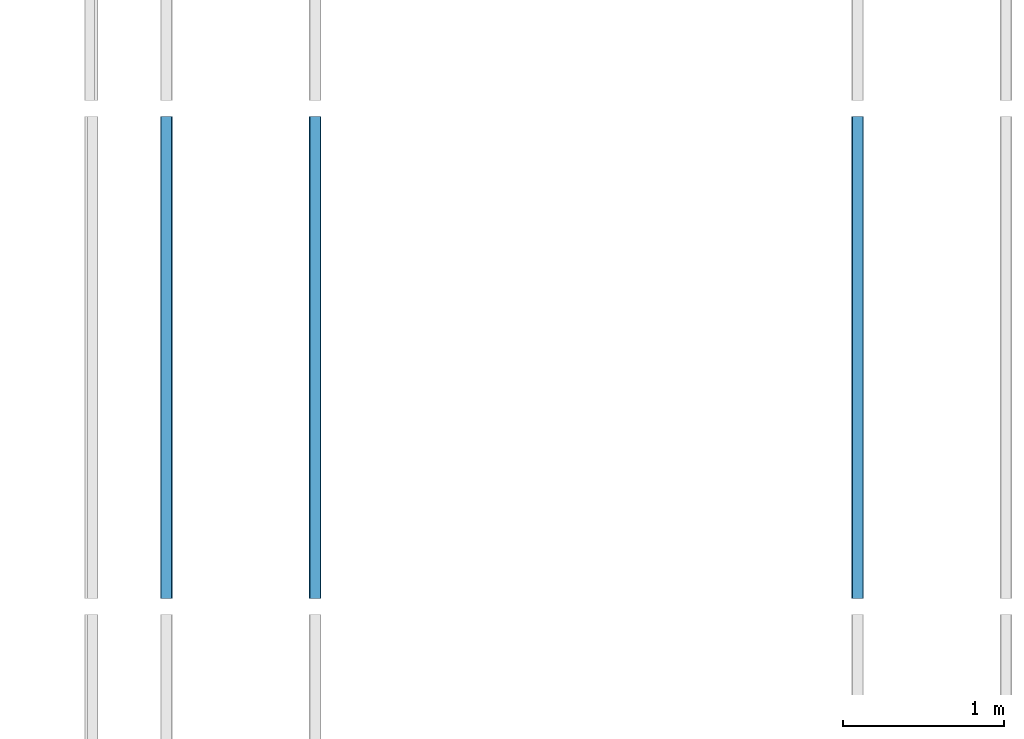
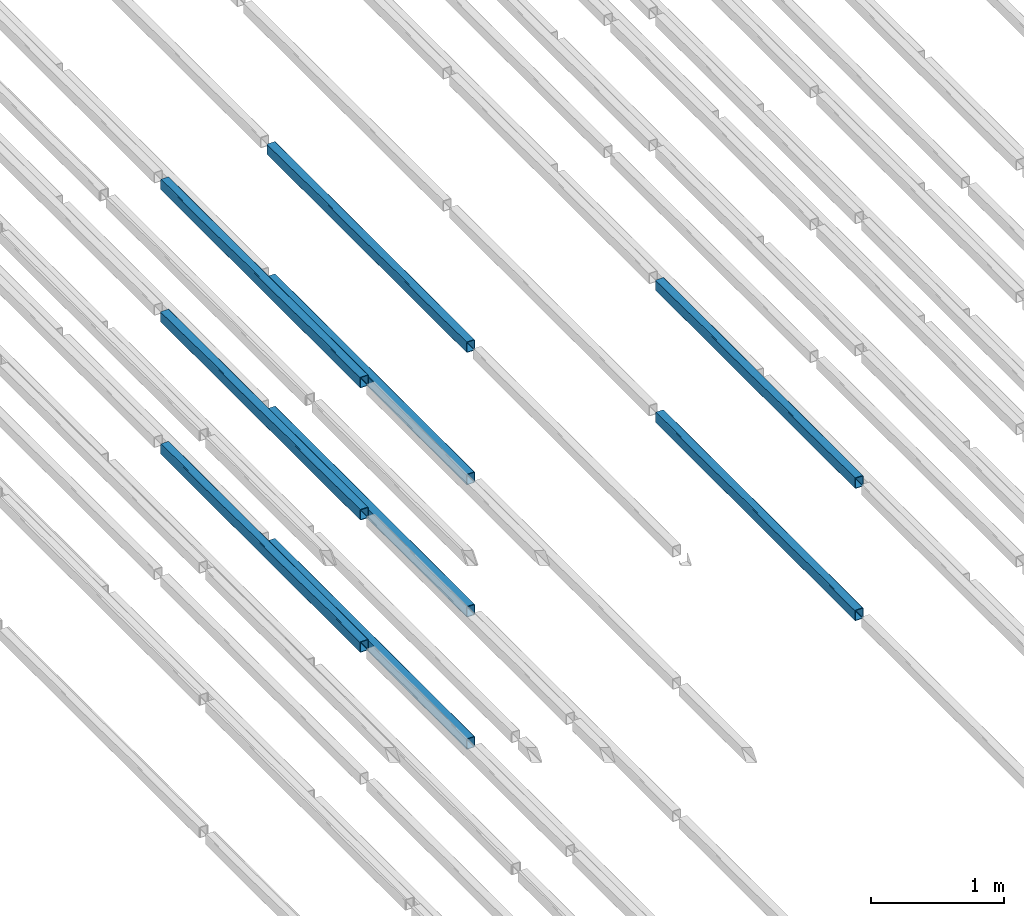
# One storey, part 58 of 290: 9 beams.
"""IFC2X3 building model written with IfcOpenShell, lengths in metres."""

from ifc_helpers import new_model, entity, si_unit, converted_unit, derived_unit, direction, frame, frame_2d, origin, place, context, subcontext, project, spatial, polyline, circle_curve, parameter, trimmed, segment, composite_curve, outline, extrude, material, type_object, element, save


model = new_model("IFC2X3")

# Units and contexts
model_context = context("Model", 3, precision=1e-05, world=origin(), true_north=direction((6.12303176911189e-17, 1.0)))
body_context = subcontext(model_context, "Body", "Model", "MODEL_VIEW")
ifc_project = project(units=[si_unit("LENGTHUNIT", "METRE"), si_unit("AREAUNIT", "SQUARE_METRE"), si_unit("VOLUMEUNIT", "CUBIC_METRE"), converted_unit("PLANEANGLEUNIT", "DEGREE", entity("IfcRatioMeasure", 0.0174532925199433), si_unit("PLANEANGLEUNIT", "RADIAN"), dimensions=[0, 0, 0, 0, 0, 0, 0]), si_unit("MASSUNIT", "GRAM", prefix="KILO"), derived_unit("MASSDENSITYUNIT", [(si_unit("MASSUNIT", "GRAM", prefix="KILO"), 1), (si_unit("LENGTHUNIT", "METRE"), -3)]), derived_unit("MOMENTOFINERTIAUNIT", [(si_unit("LENGTHUNIT", "METRE"), 4)]), si_unit("TIMEUNIT", "SECOND"), si_unit("FREQUENCYUNIT", "HERTZ"), si_unit("THERMODYNAMICTEMPERATUREUNIT", "DEGREE_CELSIUS"), derived_unit("THERMALTRANSMITTANCEUNIT", [(si_unit("MASSUNIT", "GRAM", prefix="KILO"), 1), (si_unit("THERMODYNAMICTEMPERATUREUNIT", "KELVIN"), -1), (si_unit("TIMEUNIT", "SECOND"), -3)]), derived_unit("VOLUMETRICFLOWRATEUNIT", [(si_unit("LENGTHUNIT", "METRE"), 3), (si_unit("TIMEUNIT", "SECOND"), -1)]), si_unit("ELECTRICCURRENTUNIT", "AMPERE"), si_unit("ELECTRICVOLTAGEUNIT", "VOLT"), si_unit("POWERUNIT", "WATT"), si_unit("FORCEUNIT", "NEWTON", prefix="KILO"), si_unit("ILLUMINANCEUNIT", "LUX"), si_unit("LUMINOUSFLUXUNIT", "LUMEN"), si_unit("LUMINOUSINTENSITYUNIT", "CANDELA"), derived_unit("USERDEFINED", [(si_unit("MASSUNIT", "GRAM", prefix="KILO"), -1), (si_unit("LENGTHUNIT", "METRE"), -2), (si_unit("TIMEUNIT", "SECOND"), 3), (si_unit("LUMINOUSFLUXUNIT", "LUMEN"), 1)]), derived_unit("LINEARVELOCITYUNIT", [(si_unit("LENGTHUNIT", "METRE"), 1), (si_unit("TIMEUNIT", "SECOND"), -1)]), si_unit("PRESSUREUNIT", "PASCAL"), derived_unit("USERDEFINED", [(si_unit("LENGTHUNIT", "METRE"), -2), (si_unit("MASSUNIT", "GRAM", prefix="KILO"), 1), (si_unit("TIMEUNIT", "SECOND"), -2)]), derived_unit("LINEARFORCEUNIT", [(si_unit("MASSUNIT", "GRAM", prefix="KILO"), 1), (si_unit("LENGTHUNIT", "METRE"), 1), (si_unit("TIMEUNIT", "SECOND"), -2), (si_unit("LENGTHUNIT", "METRE"), -1)]), derived_unit("PLANARFORCEUNIT", [(si_unit("MASSUNIT", "GRAM", prefix="KILO"), 1), (si_unit("LENGTHUNIT", "METRE"), 1), (si_unit("TIMEUNIT", "SECOND"), -2), (si_unit("LENGTHUNIT", "METRE"), -2)])], contexts=[model_context])

# Site, building, storey
site_placement = place(None, origin())
site = spatial("IfcSite", under=ifc_project, at=site_placement, Name="Default", CompositionType="ELEMENT")
building_placement = place(site_placement, origin())
building = spatial("IfcBuilding", under=site, at=building_placement, CompositionType="ELEMENT")
storey_placement = place(building_placement, frame((0.0, 0.0, 4.0)))
storey = spatial("IfcBuildingStorey", under=building, at=storey_placement, Name="01_OG", CompositionType="ELEMENT", Elevation=4.0)

# Beams
ifc_material = material(Name="Metall - Baustahl S235 blau")
beam_type = type_object("IfcBeamType", Name="RHS Träger (EN 10219-2):RHS 100 x 75 x 5", PredefinedType="NOTDEFINED")
beam_1_placement = place(storey_placement, frame((-196.415111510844, 39.548088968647, -1.2), z_axis=(0.0, 0.0, 1.0), x_axis=(0.0, 1.0, 0.0)))
element("IfcBeam", 1, at=beam_1_placement, inside=storey, type_object=beam_type, material=ifc_material, Name="RHS Träger (EN 10219-2):RHS 100 x 75 x 5", ObjectType="RHS Träger (EN 10219-2):RHS 100 x 75 x 5", context=body_context, shape_type="SweptSolid", body=[
    extrude(outline(composite_curve([segment(trimmed(circle_curve(frame_2d((-0.0274999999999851, -0.0400000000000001), x_axis=(1.0, 0.0)), 0.01), [parameter(180.0)], [parameter(270.0)], True, "PARAMETER"), True, "CONTINUOUS"), segment(polyline([(-0.0274999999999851, -0.05), (0.0274999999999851, -0.05)]), True, "CONTINUOUS"), segment(trimmed(circle_curve(frame_2d((0.0274999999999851, -0.0400000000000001), x_axis=(1.0, 0.0)), 0.01), [parameter(270.0)], [parameter(5.08888749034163e-14)], True, "PARAMETER"), True, "CONTINUOUS"), segment(polyline([(0.0375000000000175, -0.0400000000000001), (0.0375000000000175, 0.0400000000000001)]), True, "CONTINUOUS"), segment(trimmed(circle_curve(frame_2d((0.0274999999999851, 0.0400000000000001), x_axis=(1.0, 0.0)), 0.01), [parameter(360.0)], [parameter(89.9999999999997)], True, "PARAMETER"), True, "CONTINUOUS"), segment(polyline([(0.0274999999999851, 0.05), (-0.0274999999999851, 0.05)]), True, "CONTINUOUS"), segment(trimmed(circle_curve(frame_2d((-0.0274999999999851, 0.0400000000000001), x_axis=(1.0, 0.0)), 0.01), [parameter(90.0000000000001)], [parameter(180.0)], True, "PARAMETER"), True, "CONTINUOUS"), segment(polyline([(-0.0374999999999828, 0.0400000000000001), (-0.0374999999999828, -0.0400000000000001)]), True, "CONTINUOUS")], self_intersect=False), holes=[composite_curve([segment(polyline([(0.0274999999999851, -0.0450000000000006), (-0.0274999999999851, -0.0450000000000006)]), True, "CONTINUOUS"), segment(trimmed(circle_curve(frame_2d((-0.0274999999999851, -0.0400000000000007), x_axis=(1.0, 0.0)), 0.005), [parameter(180.0)], [parameter(270.0)], True, "PARAMETER"), False, "CONTINUOUS"), segment(polyline([(-0.0325000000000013, -0.0400000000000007), (-0.0325000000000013, 0.039999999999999)]), True, "CONTINUOUS"), segment(trimmed(circle_curve(frame_2d((-0.0274999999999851, 0.039999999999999), x_axis=(1.0, 0.0)), 0.005), [parameter(90.0000000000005)], [parameter(180.0)], True, "PARAMETER"), False, "CONTINUOUS"), segment(polyline([(-0.0274999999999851, 0.044999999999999), (0.0274999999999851, 0.044999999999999)]), True, "CONTINUOUS"), segment(trimmed(circle_curve(frame_2d((0.0274999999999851, 0.039999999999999), x_axis=(1.0, 0.0)), 0.005), [parameter(0.0)], [parameter(90.0000000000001)], True, "PARAMETER"), False, "CONTINUOUS"), segment(polyline([(0.0325000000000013, 0.039999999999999), (0.0325000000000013, -0.0400000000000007)]), True, "CONTINUOUS"), segment(trimmed(circle_curve(frame_2d((0.0274999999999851, -0.0400000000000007), x_axis=(1.0, 0.0)), 0.005), [parameter(270.0)], [parameter(4.07110999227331e-13)], True, "PARAMETER"), False, "CONTINUOUS")], self_intersect=False)]), frame((0.000100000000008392, 0.0375000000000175, -0.0500000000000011), z_axis=(1.0, 0.0, 0.0), x_axis=(0.0, -1.0, 0.0)), (0.0, 0.0, 1.0), 2.99979999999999),
])
beam_2_placement = place(storey_placement, frame((-196.415111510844, 39.548088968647, 0.0150000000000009), z_axis=(0.0, 0.0, 1.0), x_axis=(0.0, 1.0, 0.0)))
element("IfcBeam", 2, at=beam_2_placement, inside=storey, type_object=beam_type, material=ifc_material, Name="RHS Träger (EN 10219-2):RHS 100 x 75 x 5", ObjectType="RHS Träger (EN 10219-2):RHS 100 x 75 x 5", context=body_context, shape_type="SweptSolid", body=[
    extrude(outline(composite_curve([segment(trimmed(circle_curve(frame_2d((-0.0274999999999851, -0.0400000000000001), x_axis=(1.0, 0.0)), 0.01), [parameter(180.0)], [parameter(270.0)], True, "PARAMETER"), True, "CONTINUOUS"), segment(polyline([(-0.0274999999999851, -0.05), (0.0274999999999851, -0.05)]), True, "CONTINUOUS"), segment(trimmed(circle_curve(frame_2d((0.0274999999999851, -0.0400000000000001), x_axis=(1.0, 0.0)), 0.01), [parameter(270.0)], [parameter(5.08888749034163e-14)], True, "PARAMETER"), True, "CONTINUOUS"), segment(polyline([(0.0375000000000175, -0.0400000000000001), (0.0375000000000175, 0.0400000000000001)]), True, "CONTINUOUS"), segment(trimmed(circle_curve(frame_2d((0.0274999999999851, 0.0400000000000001), x_axis=(1.0, 0.0)), 0.01), [parameter(360.0)], [parameter(89.9999999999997)], True, "PARAMETER"), True, "CONTINUOUS"), segment(polyline([(0.0274999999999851, 0.05), (-0.0274999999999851, 0.05)]), True, "CONTINUOUS"), segment(trimmed(circle_curve(frame_2d((-0.0274999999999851, 0.0400000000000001), x_axis=(1.0, 0.0)), 0.01), [parameter(90.0000000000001)], [parameter(180.0)], True, "PARAMETER"), True, "CONTINUOUS"), segment(polyline([(-0.0374999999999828, 0.0400000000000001), (-0.0374999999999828, -0.0400000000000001)]), True, "CONTINUOUS")], self_intersect=False), holes=[composite_curve([segment(polyline([(0.0274999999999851, -0.0450000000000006), (-0.0274999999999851, -0.0450000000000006)]), True, "CONTINUOUS"), segment(trimmed(circle_curve(frame_2d((-0.0274999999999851, -0.0400000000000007), x_axis=(1.0, 0.0)), 0.005), [parameter(180.0)], [parameter(270.0)], True, "PARAMETER"), False, "CONTINUOUS"), segment(polyline([(-0.0325000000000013, -0.0400000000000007), (-0.0325000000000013, 0.039999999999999)]), True, "CONTINUOUS"), segment(trimmed(circle_curve(frame_2d((-0.0274999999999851, 0.039999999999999), x_axis=(1.0, 0.0)), 0.005), [parameter(90.0000000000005)], [parameter(180.0)], True, "PARAMETER"), False, "CONTINUOUS"), segment(polyline([(-0.0274999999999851, 0.044999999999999), (0.0274999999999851, 0.044999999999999)]), True, "CONTINUOUS"), segment(trimmed(circle_curve(frame_2d((0.0274999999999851, 0.039999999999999), x_axis=(1.0, 0.0)), 0.005), [parameter(0.0)], [parameter(90.0000000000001)], True, "PARAMETER"), False, "CONTINUOUS"), segment(polyline([(0.0325000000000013, 0.039999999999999), (0.0325000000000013, -0.0400000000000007)]), True, "CONTINUOUS"), segment(trimmed(circle_curve(frame_2d((0.0274999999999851, -0.0400000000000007), x_axis=(1.0, 0.0)), 0.005), [parameter(270.0)], [parameter(4.07110999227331e-13)], True, "PARAMETER"), False, "CONTINUOUS")], self_intersect=False)]), frame((0.000100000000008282, 0.0375000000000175, -0.0500000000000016), z_axis=(1.0, 0.0, 0.0), x_axis=(0.0, -1.0, 0.0)), (0.0, 0.0, 1.0), 2.99979999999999),
])
beam_3_placement = place(storey_placement, frame((-200.715111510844, 39.548088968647, 0.0150000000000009), z_axis=(0.0, 0.0, 1.0), x_axis=(0.0, 1.0, 0.0)))
element("IfcBeam", 3, at=beam_3_placement, inside=storey, type_object=beam_type, material=ifc_material, Name="RHS Träger (EN 10219-2):RHS 100 x 75 x 5", ObjectType="RHS Träger (EN 10219-2):RHS 100 x 75 x 5", context=body_context, shape_type="SweptSolid", body=[
    extrude(outline(composite_curve([segment(trimmed(circle_curve(frame_2d((-0.0274999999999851, -0.0400000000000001), x_axis=(1.0, 0.0)), 0.01), [parameter(180.0)], [parameter(270.0)], True, "PARAMETER"), True, "CONTINUOUS"), segment(polyline([(-0.0274999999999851, -0.05), (0.0274999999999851, -0.05)]), True, "CONTINUOUS"), segment(trimmed(circle_curve(frame_2d((0.0274999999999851, -0.0400000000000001), x_axis=(1.0, 0.0)), 0.01), [parameter(270.0)], [parameter(5.08888749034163e-14)], True, "PARAMETER"), True, "CONTINUOUS"), segment(polyline([(0.0375000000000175, -0.0400000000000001), (0.0375000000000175, 0.0400000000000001)]), True, "CONTINUOUS"), segment(trimmed(circle_curve(frame_2d((0.0274999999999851, 0.0400000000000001), x_axis=(1.0, 0.0)), 0.01), [parameter(360.0)], [parameter(89.9999999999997)], True, "PARAMETER"), True, "CONTINUOUS"), segment(polyline([(0.0274999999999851, 0.05), (-0.0274999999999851, 0.05)]), True, "CONTINUOUS"), segment(trimmed(circle_curve(frame_2d((-0.0274999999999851, 0.0400000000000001), x_axis=(1.0, 0.0)), 0.01), [parameter(90.0000000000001)], [parameter(180.0)], True, "PARAMETER"), True, "CONTINUOUS"), segment(polyline([(-0.0374999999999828, 0.0400000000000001), (-0.0374999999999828, -0.0400000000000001)]), True, "CONTINUOUS")], self_intersect=False), holes=[composite_curve([segment(polyline([(0.0274999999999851, -0.0450000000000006), (-0.0274999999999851, -0.0450000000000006)]), True, "CONTINUOUS"), segment(trimmed(circle_curve(frame_2d((-0.0274999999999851, -0.0400000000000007), x_axis=(1.0, 0.0)), 0.005), [parameter(180.0)], [parameter(270.0)], True, "PARAMETER"), False, "CONTINUOUS"), segment(polyline([(-0.0325000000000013, -0.0400000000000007), (-0.0325000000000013, 0.039999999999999)]), True, "CONTINUOUS"), segment(trimmed(circle_curve(frame_2d((-0.0274999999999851, 0.039999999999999), x_axis=(1.0, 0.0)), 0.005), [parameter(90.0000000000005)], [parameter(180.0)], True, "PARAMETER"), False, "CONTINUOUS"), segment(polyline([(-0.0274999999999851, 0.044999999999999), (0.0274999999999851, 0.044999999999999)]), True, "CONTINUOUS"), segment(trimmed(circle_curve(frame_2d((0.0274999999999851, 0.039999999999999), x_axis=(1.0, 0.0)), 0.005), [parameter(0.0)], [parameter(90.0000000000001)], True, "PARAMETER"), False, "CONTINUOUS"), segment(polyline([(0.0325000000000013, 0.039999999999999), (0.0325000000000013, -0.0400000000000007)]), True, "CONTINUOUS"), segment(trimmed(circle_curve(frame_2d((0.0274999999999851, -0.0400000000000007), x_axis=(1.0, 0.0)), 0.005), [parameter(270.0)], [parameter(4.07110999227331e-13)], True, "PARAMETER"), False, "CONTINUOUS")], self_intersect=False)]), frame((9.99999999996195e-05, 0.0375000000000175, -0.0500000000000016), z_axis=(1.0, 0.0, 0.0), x_axis=(0.0, -1.0, 0.0)), (0.0, 0.0, 1.0), 2.99979999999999),
])
beam_4_placement = place(storey_placement, frame((-200.715111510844, 39.548088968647, 1.23), z_axis=(0.0, 0.0, 1.0), x_axis=(0.0, 1.0, 0.0)))
element("IfcBeam", 4, at=beam_4_placement, inside=storey, type_object=beam_type, material=ifc_material, Name="RHS Träger (EN 10219-2):RHS 100 x 75 x 5", ObjectType="RHS Träger (EN 10219-2):RHS 100 x 75 x 5", context=body_context, shape_type="SweptSolid", body=[
    extrude(outline(composite_curve([segment(trimmed(circle_curve(frame_2d((-0.0274999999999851, -0.0399999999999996), x_axis=(1.0, 0.0)), 0.01), [parameter(180.0)], [parameter(270.0)], True, "PARAMETER"), True, "CONTINUOUS"), segment(polyline([(-0.0274999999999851, -0.0499999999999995), (0.0274999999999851, -0.0499999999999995)]), True, "CONTINUOUS"), segment(trimmed(circle_curve(frame_2d((0.0274999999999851, -0.0399999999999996), x_axis=(1.0, 0.0)), 0.01), [parameter(270.0)], [parameter(5.08888749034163e-14)], True, "PARAMETER"), True, "CONTINUOUS"), segment(polyline([(0.0375000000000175, -0.0399999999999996), (0.0375000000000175, 0.0399999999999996)]), True, "CONTINUOUS"), segment(trimmed(circle_curve(frame_2d((0.0274999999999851, 0.0399999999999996), x_axis=(1.0, 0.0)), 0.01), [parameter(360.0)], [parameter(89.9999999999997)], True, "PARAMETER"), True, "CONTINUOUS"), segment(polyline([(0.0274999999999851, 0.0500000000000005), (-0.0274999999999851, 0.0500000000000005)]), True, "CONTINUOUS"), segment(trimmed(circle_curve(frame_2d((-0.0274999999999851, 0.0399999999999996), x_axis=(1.0, 0.0)), 0.01), [parameter(90.0000000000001)], [parameter(180.0)], True, "PARAMETER"), True, "CONTINUOUS"), segment(polyline([(-0.0374999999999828, 0.0399999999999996), (-0.0374999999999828, -0.0399999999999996)]), True, "CONTINUOUS")], self_intersect=False), holes=[composite_curve([segment(polyline([(0.0274999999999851, -0.0450000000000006), (-0.0274999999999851, -0.0450000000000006)]), True, "CONTINUOUS"), segment(trimmed(circle_curve(frame_2d((-0.0274999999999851, -0.0400000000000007), x_axis=(1.0, 0.0)), 0.005), [parameter(180.0)], [parameter(270.0)], True, "PARAMETER"), False, "CONTINUOUS"), segment(polyline([(-0.0325000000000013, -0.0400000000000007), (-0.0325000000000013, 0.0399999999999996)]), True, "CONTINUOUS"), segment(trimmed(circle_curve(frame_2d((-0.0274999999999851, 0.0399999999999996), x_axis=(1.0, 0.0)), 0.005), [parameter(90.0000000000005)], [parameter(180.0)], True, "PARAMETER"), False, "CONTINUOUS"), segment(polyline([(-0.0274999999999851, 0.0449999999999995), (0.0274999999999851, 0.0449999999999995)]), True, "CONTINUOUS"), segment(trimmed(circle_curve(frame_2d((0.0274999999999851, 0.0399999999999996), x_axis=(1.0, 0.0)), 0.005), [parameter(0.0)], [parameter(90.0000000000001)], True, "PARAMETER"), False, "CONTINUOUS"), segment(polyline([(0.0325000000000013, 0.0399999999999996), (0.0325000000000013, -0.0400000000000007)]), True, "CONTINUOUS"), segment(trimmed(circle_curve(frame_2d((0.0274999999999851, -0.0400000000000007), x_axis=(1.0, 0.0)), 0.005), [parameter(270.0)], [parameter(4.07110999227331e-13)], True, "PARAMETER"), False, "CONTINUOUS")], self_intersect=False)]), frame((9.99999999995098e-05, 0.0375000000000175, -0.0500000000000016), z_axis=(1.0, 0.0, 0.0), x_axis=(0.0, -1.0, 0.0)), (0.0, 0.0, 1.0), 2.99979999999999),
])
beam_5_placement = place(storey_placement, frame((-200.715111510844, 39.548088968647, 2.445), z_axis=(0.0, 0.0, 1.0), x_axis=(0.0, 1.0, 0.0)))
element("IfcBeam", 5, at=beam_5_placement, inside=storey, type_object=beam_type, material=ifc_material, Name="RHS Träger (EN 10219-2):RHS 100 x 75 x 5", ObjectType="RHS Träger (EN 10219-2):RHS 100 x 75 x 5", context=body_context, shape_type="SweptSolid", body=[
    extrude(outline(composite_curve([segment(trimmed(circle_curve(frame_2d((-0.0274999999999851, -0.0399999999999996), x_axis=(1.0, 0.0)), 0.01), [parameter(180.0)], [parameter(270.0)], True, "PARAMETER"), True, "CONTINUOUS"), segment(polyline([(-0.0274999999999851, -0.0499999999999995), (0.0274999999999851, -0.0499999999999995)]), True, "CONTINUOUS"), segment(trimmed(circle_curve(frame_2d((0.0274999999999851, -0.0399999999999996), x_axis=(1.0, 0.0)), 0.01), [parameter(270.0)], [parameter(5.08888749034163e-14)], True, "PARAMETER"), True, "CONTINUOUS"), segment(polyline([(0.0375000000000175, -0.0399999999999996), (0.0375000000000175, 0.0399999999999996)]), True, "CONTINUOUS"), segment(trimmed(circle_curve(frame_2d((0.0274999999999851, 0.0399999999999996), x_axis=(1.0, 0.0)), 0.01), [parameter(360.0)], [parameter(89.9999999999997)], True, "PARAMETER"), True, "CONTINUOUS"), segment(polyline([(0.0274999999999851, 0.0500000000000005), (-0.0274999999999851, 0.0500000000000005)]), True, "CONTINUOUS"), segment(trimmed(circle_curve(frame_2d((-0.0274999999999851, 0.0399999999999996), x_axis=(1.0, 0.0)), 0.01), [parameter(90.0000000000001)], [parameter(180.0)], True, "PARAMETER"), True, "CONTINUOUS"), segment(polyline([(-0.0374999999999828, 0.0399999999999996), (-0.0374999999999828, -0.0399999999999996)]), True, "CONTINUOUS")], self_intersect=False), holes=[composite_curve([segment(polyline([(0.0274999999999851, -0.0450000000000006), (-0.0274999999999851, -0.0450000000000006)]), True, "CONTINUOUS"), segment(trimmed(circle_curve(frame_2d((-0.0274999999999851, -0.0400000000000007), x_axis=(1.0, 0.0)), 0.005), [parameter(180.0)], [parameter(270.0)], True, "PARAMETER"), False, "CONTINUOUS"), segment(polyline([(-0.0325000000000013, -0.0400000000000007), (-0.0325000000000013, 0.0399999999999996)]), True, "CONTINUOUS"), segment(trimmed(circle_curve(frame_2d((-0.0274999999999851, 0.0399999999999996), x_axis=(1.0, 0.0)), 0.005), [parameter(90.0000000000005)], [parameter(180.0)], True, "PARAMETER"), False, "CONTINUOUS"), segment(polyline([(-0.0274999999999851, 0.0449999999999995), (0.0274999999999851, 0.0449999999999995)]), True, "CONTINUOUS"), segment(trimmed(circle_curve(frame_2d((0.0274999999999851, 0.0399999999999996), x_axis=(1.0, 0.0)), 0.005), [parameter(0.0)], [parameter(90.0000000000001)], True, "PARAMETER"), False, "CONTINUOUS"), segment(polyline([(0.0325000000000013, 0.0399999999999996), (0.0325000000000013, -0.0400000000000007)]), True, "CONTINUOUS"), segment(trimmed(circle_curve(frame_2d((0.0274999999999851, -0.0400000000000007), x_axis=(1.0, 0.0)), 0.005), [parameter(270.0)], [parameter(4.07110999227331e-13)], True, "PARAMETER"), False, "CONTINUOUS")], self_intersect=False)]), frame((9.99999999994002e-05, 0.0375000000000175, -0.0500000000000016), z_axis=(1.0, 0.0, 0.0), x_axis=(0.0, -1.0, 0.0)), (0.0, 0.0, 1.0), 2.99979999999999),
])
beam_6_placement = place(storey_placement, frame((-199.865111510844, 39.548088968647, -1.2), z_axis=(0.0, 0.0, 1.0), x_axis=(0.0, 1.0, 0.0)))
element("IfcBeam", 6, at=beam_6_placement, inside=storey, type_object=beam_type, material=ifc_material, Name="RHS Träger (EN 10219-2):RHS 100 x 75 x 5", ObjectType="RHS Träger (EN 10219-2):RHS 100 x 75 x 5", context=body_context, shape_type="SweptSolid", body=[
    extrude(outline(composite_curve([segment(polyline([(-0.0400000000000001, -0.0374999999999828), (0.0400000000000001, -0.0374999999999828)]), True, "CONTINUOUS"), segment(trimmed(circle_curve(frame_2d((0.0400000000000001, -0.0274999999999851), x_axis=(0.0, 1.0)), 0.01), [parameter(180.0)], [parameter(270.0)], True, "PARAMETER"), True, "CONTINUOUS"), segment(polyline([(0.05, -0.0274999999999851), (0.05, 0.0274999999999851)]), True, "CONTINUOUS"), segment(trimmed(circle_curve(frame_2d((0.0400000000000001, 0.0274999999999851), x_axis=(0.0, 1.0)), 0.01), [parameter(270.0)], [parameter(4.07110999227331e-13)], True, "PARAMETER"), True, "CONTINUOUS"), segment(polyline([(0.0400000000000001, 0.0375000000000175), (-0.0400000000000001, 0.0375000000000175)]), True, "CONTINUOUS"), segment(trimmed(circle_curve(frame_2d((-0.0400000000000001, 0.0274999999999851), x_axis=(0.0, 1.0)), 0.01), [parameter(360.0)], [parameter(90.0000000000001)], True, "PARAMETER"), True, "CONTINUOUS"), segment(polyline([(-0.05, 0.0274999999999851), (-0.05, -0.0274999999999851)]), True, "CONTINUOUS"), segment(trimmed(circle_curve(frame_2d((-0.0400000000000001, -0.0274999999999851), x_axis=(0.0, 1.0)), 0.01), [parameter(90.0000000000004)], [parameter(180.0)], True, "PARAMETER"), True, "CONTINUOUS")], self_intersect=False), holes=[composite_curve([segment(trimmed(circle_curve(frame_2d((-0.0400000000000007, 0.0274999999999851), x_axis=(0.0, 1.0)), 0.005), [parameter(360.0)], [parameter(89.9999999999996)], True, "PARAMETER"), False, "CONTINUOUS"), segment(polyline([(-0.0400000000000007, 0.0325000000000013), (0.039999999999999, 0.0325000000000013)]), True, "CONTINUOUS"), segment(trimmed(circle_curve(frame_2d((0.039999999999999, 0.0274999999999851), x_axis=(0.0, 1.0)), 0.005), [parameter(270.0)], [parameter(0.0)], True, "PARAMETER"), False, "CONTINUOUS"), segment(polyline([(0.044999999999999, 0.0274999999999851), (0.044999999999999, -0.0274999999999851)]), True, "CONTINUOUS"), segment(trimmed(circle_curve(frame_2d((0.039999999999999, -0.0274999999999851), x_axis=(0.0, 1.0)), 0.005), [parameter(180.0)], [parameter(269.999999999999)], True, "PARAMETER"), False, "CONTINUOUS"), segment(polyline([(0.039999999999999, -0.0325000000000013), (-0.0400000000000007, -0.0325000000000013)]), True, "CONTINUOUS"), segment(trimmed(circle_curve(frame_2d((-0.0400000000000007, -0.0274999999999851), x_axis=(0.0, 1.0)), 0.005), [parameter(90.0000000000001)], [parameter(180.0)], True, "PARAMETER"), False, "CONTINUOUS"), segment(polyline([(-0.0450000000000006, -0.0274999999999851), (-0.0450000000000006, 0.0274999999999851)]), True, "CONTINUOUS")], self_intersect=False)]), frame((9.99999999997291e-05, -0.0375000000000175, -0.0500000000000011), z_axis=(1.0, 0.0, 0.0), x_axis=(0.0, 0.0, -1.0)), (0.0, 0.0, 1.0), 2.99979999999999),
])
beam_7_placement = place(storey_placement, frame((-199.865111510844, 39.548088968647, 0.0150000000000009), z_axis=(0.0, 0.0, 1.0), x_axis=(0.0, 1.0, 0.0)))
element("IfcBeam", 7, at=beam_7_placement, inside=storey, type_object=beam_type, material=ifc_material, Name="RHS Träger (EN 10219-2):RHS 100 x 75 x 5", ObjectType="RHS Träger (EN 10219-2):RHS 100 x 75 x 5", context=body_context, shape_type="SweptSolid", body=[
    extrude(outline(composite_curve([segment(polyline([(-0.0400000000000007, -0.0374999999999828), (0.0399999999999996, -0.0374999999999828)]), True, "CONTINUOUS"), segment(trimmed(circle_curve(frame_2d((0.0399999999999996, -0.0274999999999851), x_axis=(0.0, 1.0)), 0.01), [parameter(180.0)], [parameter(270.0)], True, "PARAMETER"), True, "CONTINUOUS"), segment(polyline([(0.0499999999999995, -0.0274999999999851), (0.0499999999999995, 0.0274999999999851)]), True, "CONTINUOUS"), segment(trimmed(circle_curve(frame_2d((0.0399999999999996, 0.0274999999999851), x_axis=(0.0, 1.0)), 0.01), [parameter(270.0)], [parameter(4.07110999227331e-13)], True, "PARAMETER"), True, "CONTINUOUS"), segment(polyline([(0.0399999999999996, 0.0375000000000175), (-0.0400000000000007, 0.0375000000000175)]), True, "CONTINUOUS"), segment(trimmed(circle_curve(frame_2d((-0.0400000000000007, 0.0274999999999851), x_axis=(0.0, 1.0)), 0.01), [parameter(360.0)], [parameter(90.0000000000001)], True, "PARAMETER"), True, "CONTINUOUS"), segment(polyline([(-0.0500000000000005, 0.0274999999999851), (-0.0500000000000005, -0.0274999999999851)]), True, "CONTINUOUS"), segment(trimmed(circle_curve(frame_2d((-0.0400000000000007, -0.0274999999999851), x_axis=(0.0, 1.0)), 0.01), [parameter(90.0000000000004)], [parameter(180.0)], True, "PARAMETER"), True, "CONTINUOUS")], self_intersect=False), holes=[composite_curve([segment(trimmed(circle_curve(frame_2d((-0.0400000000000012, 0.0274999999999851), x_axis=(0.0, 1.0)), 0.005), [parameter(360.0)], [parameter(89.9999999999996)], True, "PARAMETER"), False, "CONTINUOUS"), segment(polyline([(-0.0400000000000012, 0.0325000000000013), (0.0399999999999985, 0.0325000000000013)]), True, "CONTINUOUS"), segment(trimmed(circle_curve(frame_2d((0.0399999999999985, 0.0274999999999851), x_axis=(0.0, 1.0)), 0.005), [parameter(270.0)], [parameter(0.0)], True, "PARAMETER"), False, "CONTINUOUS"), segment(polyline([(0.0449999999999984, 0.0274999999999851), (0.0449999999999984, -0.0274999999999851)]), True, "CONTINUOUS"), segment(trimmed(circle_curve(frame_2d((0.0399999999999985, -0.0274999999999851), x_axis=(0.0, 1.0)), 0.005), [parameter(180.0)], [parameter(269.999999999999)], True, "PARAMETER"), False, "CONTINUOUS"), segment(polyline([(0.0399999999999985, -0.0325000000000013), (-0.0400000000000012, -0.0325000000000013)]), True, "CONTINUOUS"), segment(trimmed(circle_curve(frame_2d((-0.0400000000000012, -0.0274999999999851), x_axis=(0.0, 1.0)), 0.005), [parameter(90.0000000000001)], [parameter(180.0)], True, "PARAMETER"), False, "CONTINUOUS"), segment(polyline([(-0.0450000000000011, -0.0274999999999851), (-0.0450000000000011, 0.0274999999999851)]), True, "CONTINUOUS")], self_intersect=False)]), frame((9.99999999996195e-05, -0.0375000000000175, -0.0500000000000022), z_axis=(1.0, 0.0, 0.0), x_axis=(0.0, 0.0, -1.0)), (0.0, 0.0, 1.0), 2.99979999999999),
])
beam_8_placement = place(storey_placement, frame((-199.865111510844, 39.548088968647, 1.23), z_axis=(0.0, 0.0, 1.0), x_axis=(0.0, 1.0, 0.0)))
element("IfcBeam", 8, at=beam_8_placement, inside=storey, type_object=beam_type, material=ifc_material, Name="RHS Träger (EN 10219-2):RHS 100 x 75 x 5", ObjectType="RHS Träger (EN 10219-2):RHS 100 x 75 x 5", context=body_context, shape_type="SweptSolid", body=[
    extrude(outline(composite_curve([segment(polyline([(-0.0399999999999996, -0.0374999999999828), (0.0399999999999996, -0.0374999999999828)]), True, "CONTINUOUS"), segment(trimmed(circle_curve(frame_2d((0.0399999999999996, -0.0274999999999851), x_axis=(0.0, 1.0)), 0.01), [parameter(180.0)], [parameter(270.0)], True, "PARAMETER"), True, "CONTINUOUS"), segment(polyline([(0.0500000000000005, -0.0274999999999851), (0.0500000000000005, 0.0274999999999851)]), True, "CONTINUOUS"), segment(trimmed(circle_curve(frame_2d((0.0399999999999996, 0.0274999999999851), x_axis=(0.0, 1.0)), 0.01), [parameter(270.0)], [parameter(4.07110999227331e-13)], True, "PARAMETER"), True, "CONTINUOUS"), segment(polyline([(0.0399999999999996, 0.0375000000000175), (-0.0399999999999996, 0.0375000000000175)]), True, "CONTINUOUS"), segment(trimmed(circle_curve(frame_2d((-0.0399999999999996, 0.0274999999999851), x_axis=(0.0, 1.0)), 0.01), [parameter(360.0)], [parameter(90.0000000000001)], True, "PARAMETER"), True, "CONTINUOUS"), segment(polyline([(-0.0499999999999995, 0.0274999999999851), (-0.0499999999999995, -0.0274999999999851)]), True, "CONTINUOUS"), segment(trimmed(circle_curve(frame_2d((-0.0399999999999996, -0.0274999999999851), x_axis=(0.0, 1.0)), 0.01), [parameter(90.0000000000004)], [parameter(180.0)], True, "PARAMETER"), True, "CONTINUOUS")], self_intersect=False), holes=[composite_curve([segment(trimmed(circle_curve(frame_2d((-0.0400000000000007, 0.0274999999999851), x_axis=(0.0, 1.0)), 0.005), [parameter(360.0)], [parameter(89.9999999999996)], True, "PARAMETER"), False, "CONTINUOUS"), segment(polyline([(-0.0400000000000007, 0.0325000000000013), (0.0399999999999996, 0.0325000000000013)]), True, "CONTINUOUS"), segment(trimmed(circle_curve(frame_2d((0.0399999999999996, 0.0274999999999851), x_axis=(0.0, 1.0)), 0.005), [parameter(270.0)], [parameter(0.0)], True, "PARAMETER"), False, "CONTINUOUS"), segment(polyline([(0.0449999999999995, 0.0274999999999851), (0.0449999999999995, -0.0274999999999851)]), True, "CONTINUOUS"), segment(trimmed(circle_curve(frame_2d((0.0399999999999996, -0.0274999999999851), x_axis=(0.0, 1.0)), 0.005), [parameter(180.0)], [parameter(269.999999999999)], True, "PARAMETER"), False, "CONTINUOUS"), segment(polyline([(0.0399999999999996, -0.0325000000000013), (-0.0400000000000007, -0.0325000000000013)]), True, "CONTINUOUS"), segment(trimmed(circle_curve(frame_2d((-0.0400000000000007, -0.0274999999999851), x_axis=(0.0, 1.0)), 0.005), [parameter(90.0000000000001)], [parameter(180.0)], True, "PARAMETER"), False, "CONTINUOUS"), segment(polyline([(-0.0450000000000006, -0.0274999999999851), (-0.0450000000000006, 0.0274999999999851)]), True, "CONTINUOUS")], self_intersect=False)]), frame((9.99999999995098e-05, -0.0375000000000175, -0.0500000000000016), z_axis=(1.0, 0.0, 0.0), x_axis=(0.0, 0.0, -1.0)), (0.0, 0.0, 1.0), 2.99979999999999),
])
beam_9_placement = place(storey_placement, frame((-199.865111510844, 39.548088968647, 2.445), z_axis=(0.0, 0.0, 1.0), x_axis=(0.0, 1.0, 0.0)))
element("IfcBeam", 9, at=beam_9_placement, inside=storey, type_object=beam_type, material=ifc_material, Name="RHS Träger (EN 10219-2):RHS 100 x 75 x 5", ObjectType="RHS Träger (EN 10219-2):RHS 100 x 75 x 5", context=body_context, shape_type="SweptSolid", body=[
    extrude(outline(composite_curve([segment(polyline([(-0.0399999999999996, -0.0374999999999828), (0.0399999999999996, -0.0374999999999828)]), True, "CONTINUOUS"), segment(trimmed(circle_curve(frame_2d((0.0399999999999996, -0.0274999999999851), x_axis=(0.0, 1.0)), 0.01), [parameter(180.0)], [parameter(270.0)], True, "PARAMETER"), True, "CONTINUOUS"), segment(polyline([(0.0500000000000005, -0.0274999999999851), (0.0500000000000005, 0.0274999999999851)]), True, "CONTINUOUS"), segment(trimmed(circle_curve(frame_2d((0.0399999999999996, 0.0274999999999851), x_axis=(0.0, 1.0)), 0.01), [parameter(270.0)], [parameter(4.07110999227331e-13)], True, "PARAMETER"), True, "CONTINUOUS"), segment(polyline([(0.0399999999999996, 0.0375000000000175), (-0.0399999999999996, 0.0375000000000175)]), True, "CONTINUOUS"), segment(trimmed(circle_curve(frame_2d((-0.0399999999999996, 0.0274999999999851), x_axis=(0.0, 1.0)), 0.01), [parameter(360.0)], [parameter(90.0000000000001)], True, "PARAMETER"), True, "CONTINUOUS"), segment(polyline([(-0.0499999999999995, 0.0274999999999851), (-0.0499999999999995, -0.0274999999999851)]), True, "CONTINUOUS"), segment(trimmed(circle_curve(frame_2d((-0.0399999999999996, -0.0274999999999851), x_axis=(0.0, 1.0)), 0.01), [parameter(90.0000000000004)], [parameter(180.0)], True, "PARAMETER"), True, "CONTINUOUS")], self_intersect=False), holes=[composite_curve([segment(trimmed(circle_curve(frame_2d((-0.0400000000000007, 0.0274999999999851), x_axis=(0.0, 1.0)), 0.005), [parameter(360.0)], [parameter(89.9999999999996)], True, "PARAMETER"), False, "CONTINUOUS"), segment(polyline([(-0.0400000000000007, 0.0325000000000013), (0.0399999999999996, 0.0325000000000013)]), True, "CONTINUOUS"), segment(trimmed(circle_curve(frame_2d((0.0399999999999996, 0.0274999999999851), x_axis=(0.0, 1.0)), 0.005), [parameter(270.0)], [parameter(0.0)], True, "PARAMETER"), False, "CONTINUOUS"), segment(polyline([(0.0449999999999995, 0.0274999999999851), (0.0449999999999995, -0.0274999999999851)]), True, "CONTINUOUS"), segment(trimmed(circle_curve(frame_2d((0.0399999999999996, -0.0274999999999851), x_axis=(0.0, 1.0)), 0.005), [parameter(180.0)], [parameter(269.999999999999)], True, "PARAMETER"), False, "CONTINUOUS"), segment(polyline([(0.0399999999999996, -0.0325000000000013), (-0.0400000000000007, -0.0325000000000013)]), True, "CONTINUOUS"), segment(trimmed(circle_curve(frame_2d((-0.0400000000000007, -0.0274999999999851), x_axis=(0.0, 1.0)), 0.005), [parameter(90.0000000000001)], [parameter(180.0)], True, "PARAMETER"), False, "CONTINUOUS"), segment(polyline([(-0.0450000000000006, -0.0274999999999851), (-0.0450000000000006, 0.0274999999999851)]), True, "CONTINUOUS")], self_intersect=False)]), frame((9.99999999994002e-05, -0.0375000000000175, -0.0500000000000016), z_axis=(1.0, 0.0, 0.0), x_axis=(0.0, 0.0, -1.0)), (0.0, 0.0, 1.0), 2.99979999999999),
])

save(model, "model.ifc")
